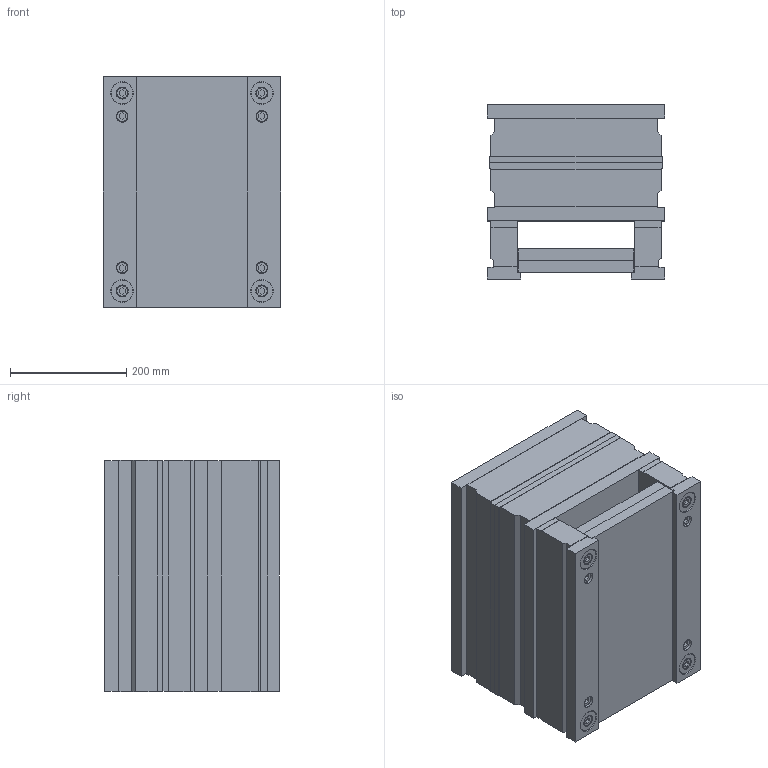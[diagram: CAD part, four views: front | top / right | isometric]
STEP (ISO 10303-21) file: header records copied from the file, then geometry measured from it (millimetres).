
FILE_DESCRIPTION (( 'STEP AP214' ), '1' );
FILE_NAME ('2962.STEP', '2002-07-10T07:55:59', ( 'Simcha Kilim' ), ( 'K. Plastics Engineering' ), 'SwSTEP 2.0', 'SolidWorks 2002025', '' );
FILE_SCHEMA (( 'AUTOMOTIVE_DESIGN' ));
Length unit declared in the file: millimetre
Products named in the file (14): 2962; ALMO (ejector plate)_2962; ALMO (hot half)_2962; ALMO (ejector half wide)_2962; ALMO (guide pin)_Ø24; ALMO (screw)_M12x60; ALMO (guide pin)_Ø23; ALMO (screw)_M12x100; ALMO (screw)_M12x130; ALMO (guide bush)_Ø24; ALMO (guide bush)_Ø23; ALMO (key plate)_Ø24; ALMO (ejector return plate)_2962; ALMO (riser)_2962
Assembly tree (34 placements, depth 2):
  2962
    ALMO (guide bush)_Ø23  x3
    ALMO (hot half)_2962
    ALMO (ejector half wide)_2962
    ALMO (screw)_M12x100  x4
    ALMO (key plate)_Ø24  x8
    ALMO (screw)_M12x60  x4
    ALMO (screw)_M12x130  x4
    ALMO (riser)_2962  x2
    ALMO (guide bush)_Ø24
    ALMO (guide pin)_Ø24
    ALMO (ejector plate)_2962
    ALMO (guide pin)_Ø23  x3
    ALMO (ejector return plate)_2962
Bounding box: 305 x 300 x 398 mm (x, y, z)
Volume: 29901789.7 mm3; surface area: 1717490.3 mm2
Topology: 34 solids, 34 shells, 862 faces, 1856 edges, 1152 vertices
Faces by surface type: plane 330, cylinder 316, cone 216
Entity records: 12293 total; most frequent: DIRECTION 2244, CARTESIAN_POINT 1973, ORIENTED_EDGE 1856, EDGE_CURVE 928, AXIS2_PLACEMENT_3D 855, VERTEX_POINT 584, LINE 534, VECTOR 534
